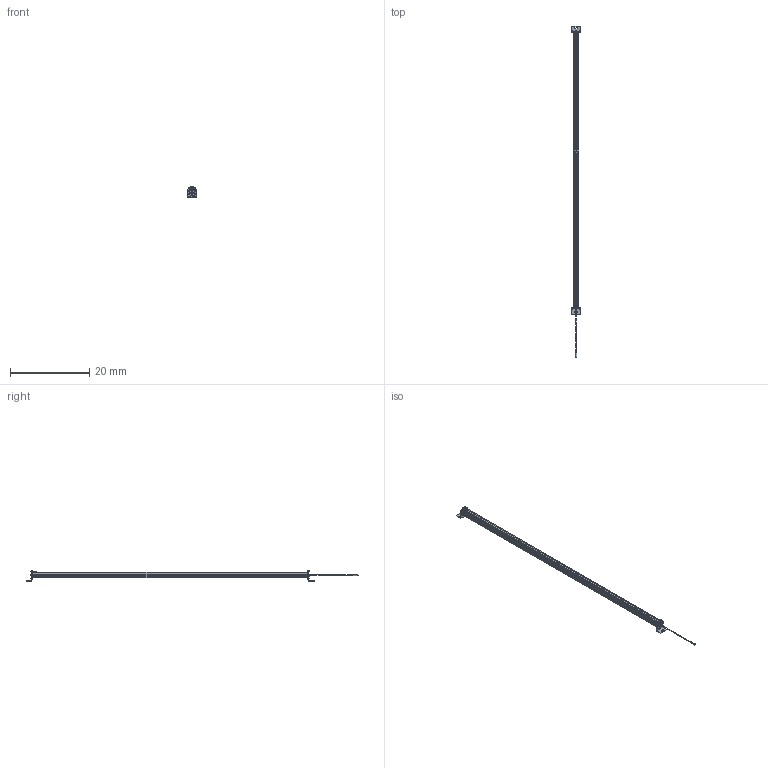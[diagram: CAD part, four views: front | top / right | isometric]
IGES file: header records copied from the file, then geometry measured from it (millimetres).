
Start section:  Autodesk DirectConnect version 7.0.27.0 ---- IGES version 5.3
Global section: file name: C:\ACADFILES\SS_PYLONS\CUSTOMER_FILES\SS-68-PYLON_3D_SMB.iges; native system: Autodesk DirectConnect 7.0.27.0; preprocessor: 7.0.27.0; author: ENGINEERMAIN; organization: Unknown; date: 20150810.125958; units: millimetre
Bounding box: 2.26 x 84.01 x 2.75 mm (x, y, z)
Surface area: 1067.2 mm2 (no closed solid volume)
Topology: 0 solids, 0 shells, 754 faces, 3833 edges, 3829 vertices
Faces by surface type: bspline 754
